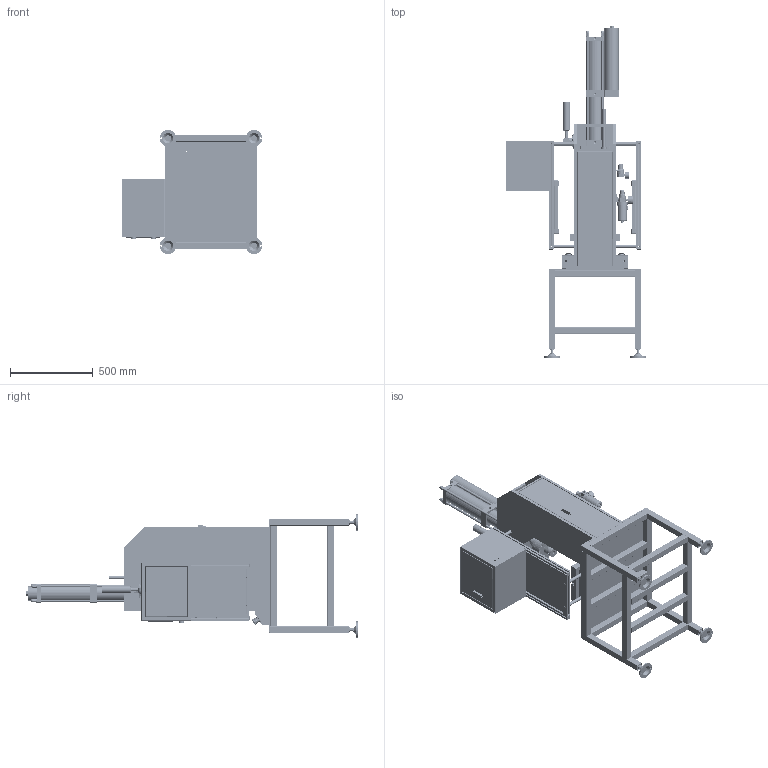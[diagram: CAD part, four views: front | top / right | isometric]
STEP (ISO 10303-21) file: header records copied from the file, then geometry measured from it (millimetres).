
FILE_DESCRIPTION((''),'2;1');
FILE_NAME('ZHENJI_ASM','2026-06-14T16:09:43',('zxb27'),(''),'CREO PARAMETRIC BY PTC INC, 2022164','CREO PARAMETRIC BY PTC INC, 2022164','');
FILE_SCHEMA(('AUTOMOTIVE_DESIGN { 1 0 10303 214 1 1 1 1 }'));
Products named in the file (1): ZHENJI_ASM
Bounding box: 850 x 2008.5 x 750 mm (x, y, z)
Surface area: 10408183.3 mm2 (no closed solid volume)
Topology: 0 solids, 137 shells, 9386 faces, 26886 edges, 17500 vertices
Faces by surface type: plane 5725, cylinder 2884, bspline 296, cone 272, torus 152, sphere 39, extrusion 18
Entity records: 479969 total; most frequent: CARTESIAN_POINT 172610, ORIENTED_EDGE 51540, DIRECTION 46694, EDGE_CURVE 26766, VECTOR 17812, LINE 17794, VERTEX_POINT 17500, PRESENTATION_STYLE_ASSIGNMENT 14616
